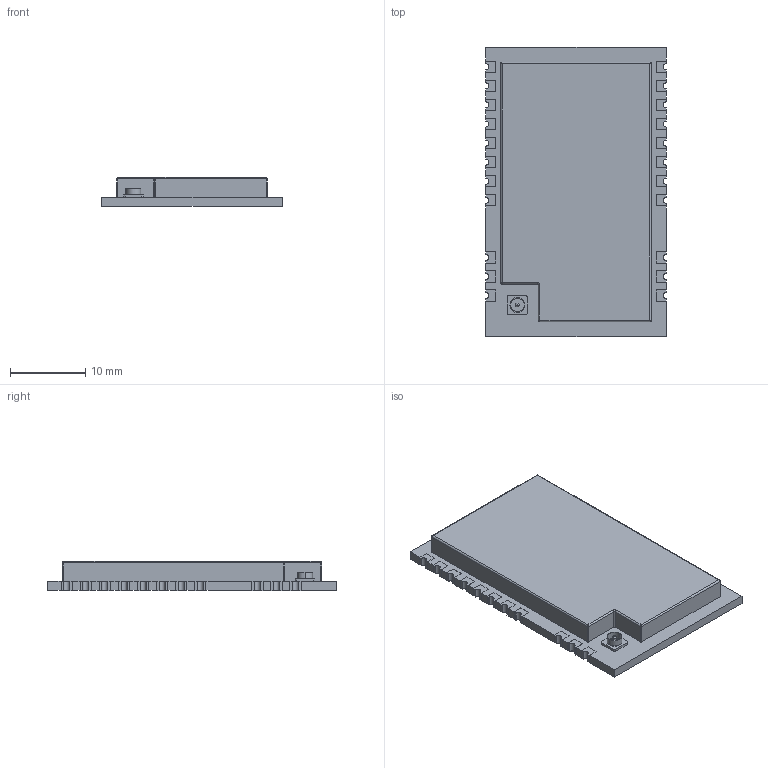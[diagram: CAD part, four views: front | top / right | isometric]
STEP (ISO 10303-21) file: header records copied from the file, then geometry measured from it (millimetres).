
FILE_DESCRIPTION (( 'STEP AP214' ), '1' );
FILE_NAME ('E22-900M30S.STEP', '2026-07-10T06:37:16', ( '' ), ( '' ), 'SwSTEP 2.0', 'SolidWorks 2026', '' );
FILE_SCHEMA (( 'AUTOMOTIVE_DESIGN' ));
Length unit declared in the file: millimetre
Products named in the file (1): E22-900M30S
Bounding box: 24.02 x 38.5 x 3.88 mm (x, y, z)
Volume: 2880.7 mm3; surface area: 2299.5 mm2
Topology: 1 solids, 1 shells, 326 faces, 943 edges, 619 vertices
Faces by surface type: plane 263, cylinder 55, bspline 5, torus 3
Entity records: 14250 total; most frequent: CARTESIAN_POINT 2029, ORIENTED_EDGE 1876, DIRECTION 1677, EDGE_CURVE 938, VECTOR 823, LINE 823, VERTEX_POINT 619, AXIS2_PLACEMENT_3D 427
